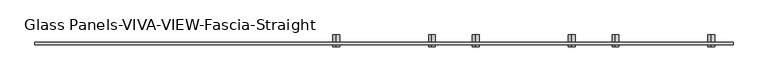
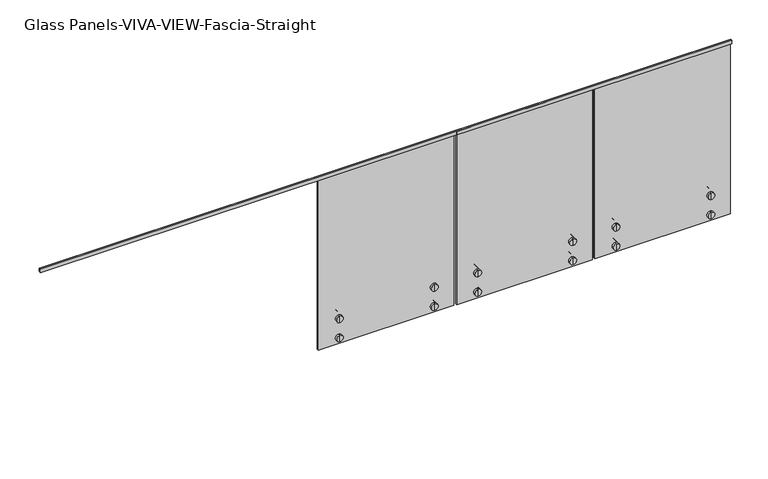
"""IFC4 building model written with IfcOpenShell, lengths in millimetres: railing geometry, Glass Panels-VIVA-VIEW-Fascia-Straight."""

from ifc_helpers import new_model, si_unit, frame, origin, place, context, project, spatial, polyline, circle_curve, outline, extrude, source, transform, mapped, element, save
from ifc_brep_helpers import plane_surface, cylinder_surface, advanced_brep


def glass_panels_viva_view_fascia_straight_a3fbb2b1(model_context):
    return source(origin(), model_context, "Body", "SolidModel", [
        extrude(outline(polyline([(-2588.6094585, 4140.2), (-2588.6094585, 4114.8), (-2590.1969585, 4114.8), (-2590.1969585, 4138.6125), (-2602.8969585, 4138.6125), (-2602.8969585, 4114.8), (-2604.4844585, 4114.8), (-2604.4844585, 4140.2), (-2588.6094585, 4140.2)])), frame((19925.5266433, 0.0, 0.0), z_axis=(1.0, 0.0, 0.0), x_axis=(0.0, 1.0, 0.0)), (0.0, 0.0, 1.0), 5181.6),
        advanced_brep(
        [(24233.7496899, -2620.3591646, 2794.0), (24233.7496899, -2620.3591646, 2844.8), (24233.7496899, -2620.3591646, 2819.4), (24233.7496899, -2602.8966646, 2794.0), (24233.7496899, -2602.8966646, 2844.8), (24233.7496899, -2602.8966646, 2813.685), (24233.7496899, -2602.8966646, 2825.115), (24233.7496899, -2590.1966646, 2813.685), (24233.7496899, -2590.1966646, 2825.115), (24233.7496899, -2590.1966646, 2794.0), (24233.7496899, -2590.1966646, 2844.8), (24233.7496899, -2533.0468115, 2794.0), (24233.7496899, -2533.0468115, 2844.8), (24233.7496899, -2533.0468115, 2819.4)],
        [
            (0, 1, circle_curve(frame((24233.7496899, -2620.3591646, 2819.4), z_axis=(0.0, -1.0, 0.0), x_axis=(0.0, 0.0, 1.0)), 25.4)),
            (1, 2),
            (2, 0),
            (1, 0, circle_curve(frame((24233.7496899, -2620.3591646, 2819.4), z_axis=(0.0, -1.0, 0.0), x_axis=(0.0, 0.0, 1.0)), 25.4)),
            (3, 4, circle_curve(frame((24233.7496899, -2602.8966646, 2819.4), z_axis=(0.0, -1.0, 0.0), x_axis=(0.0, 0.0, 1.0)), 25.4)),
            (4, 1),
            (0, 3),
            (4, 3, circle_curve(frame((24233.7496899, -2602.8966646, 2819.4), z_axis=(0.0, -1.0, 0.0), x_axis=(0.0, 0.0, 1.0)), 25.4)),
            (5, 6, circle_curve(frame((24233.7496899, -2602.8966646, 2819.4), z_axis=(0.0, -1.0, 0.0), x_axis=(0.0, 0.0, 1.0)), 5.715)),
            (6, 4),
            (3, 5),
            (6, 5, circle_curve(frame((24233.7496899, -2602.8966646, 2819.4), z_axis=(0.0, -1.0, 0.0), x_axis=(0.0, 0.0, 1.0)), 5.715)),
            (7, 8, circle_curve(frame((24233.7496899, -2590.1966646, 2819.4), z_axis=(0.0, -1.0, 0.0), x_axis=(0.0, 0.0, 1.0)), 5.715)),
            (8, 6),
            (5, 7),
            (8, 7, circle_curve(frame((24233.7496899, -2590.1966646, 2819.4), z_axis=(0.0, -1.0, 0.0), x_axis=(0.0, 0.0, 1.0)), 5.715)),
            (9, 10, circle_curve(frame((24233.7496899, -2590.1966646, 2819.4), z_axis=(0.0, -1.0, 0.0), x_axis=(0.0, 0.0, 1.0)), 25.4)),
            (10, 8),
            (7, 9),
            (10, 9, circle_curve(frame((24233.7496899, -2590.1966646, 2819.4), z_axis=(0.0, -1.0, 0.0), x_axis=(0.0, 0.0, 1.0)), 25.4)),
            (11, 12, circle_curve(frame((24233.7496899, -2533.0468115, 2819.4), z_axis=(0.0, -1.0, 0.0), x_axis=(0.0, 0.0, 1.0)), 25.4)),
            (12, 10),
            (9, 11),
            (12, 11, circle_curve(frame((24233.7496899, -2533.0468115, 2819.4), z_axis=(0.0, -1.0, 0.0), x_axis=(0.0, 0.0, 1.0)), 25.4)),
            (13, 12),
            (11, 13),
        ],
        [
            plane_surface(frame((24233.7496899, -2620.3591646, 2819.4), z_axis=(0.0, -1.0, 0.0), x_axis=(0.0, 0.0, 1.0))),
            cylinder_surface(frame((24233.7496899, -2688.6218115, 2819.4), z_axis=(0.0, 1.0, 0.0), x_axis=(0.0, 0.0, 1.0)), 25.4),
            plane_surface(frame((24233.7496899, -2602.8966646, 2819.4), z_axis=(0.0, 1.0, 0.0), x_axis=(0.0, 0.0, 1.0))),
            cylinder_surface(frame((24233.7496899, -2688.6218115, 2819.4), z_axis=(0.0, 1.0, 0.0), x_axis=(0.0, 0.0, 1.0)), 5.715),
            plane_surface(frame((24233.7496899, -2590.1966646, 2819.4), z_axis=(0.0, -1.0, 0.0), x_axis=(0.0, 0.0, 1.0))),
            plane_surface(frame((24233.7496899, -2533.0468115, 2819.4), z_axis=(0.0, 1.0, 0.0), x_axis=(0.0, 0.0, 1.0))),
        ],
        [
            (0, [[1, 2, 3]]),
            (0, [[4, -3, -2]]),
            (1, [[5, 6, -1, 7]]),
            (1, [[8, -7, -4, -6]]),
            (2, [[9, 10, -5, 11]]),
            (2, [[12, -11, -8, -10]]),
            (3, [[13, 14, -9, 15]]),
            (3, [[16, -15, -12, -14]]),
            (4, [[17, 18, -13, 19]]),
            (4, [[20, -19, -16, -18]]),
            (1, [[21, 22, -17, 23]]),
            (1, [[24, -23, -20, -22]]),
            (5, [[25, -21, 26]]),
            (5, [[-26, -24, -25]]),
        ],
    ),
        advanced_brep(
        [(24233.7496899, -2602.8966646, 2966.085), (24233.7496899, -2602.8966646, 2977.515), (24233.7496899, -2602.8966646, 2997.2), (24233.7496899, -2602.8966646, 2946.4), (24233.7496899, -2590.1966646, 2966.085), (24233.7496899, -2590.1966646, 2977.515), (24233.7496899, -2590.1966646, 2946.4), (24233.7496899, -2590.1966646, 2997.2), (24233.7496899, -2533.0468115, 2946.4), (24233.7496899, -2533.0468115, 2997.2), (24233.7496899, -2533.0468115, 2971.8), (24233.7496899, -2620.3591646, 2946.4), (24233.7496899, -2620.3591646, 2997.2), (24233.7496899, -2620.3591646, 2971.8)],
        [
            (0, 1, circle_curve(frame((24233.7496899, -2602.8966646, 2971.8), z_axis=(0.0, -1.0, 0.0), x_axis=(0.0, 0.0, 1.0)), 5.715)),
            (1, 2),
            (2, 3, circle_curve(frame((24233.7496899, -2602.8966646, 2971.8), z_axis=(0.0, 1.0, 0.0), x_axis=(0.0, 0.0, 1.0)), 25.4)),
            (3, 0),
            (1, 0, circle_curve(frame((24233.7496899, -2602.8966646, 2971.8), z_axis=(0.0, -1.0, 0.0), x_axis=(0.0, 0.0, 1.0)), 5.715)),
            (3, 2, circle_curve(frame((24233.7496899, -2602.8966646, 2971.8), z_axis=(0.0, 1.0, 0.0), x_axis=(0.0, 0.0, 1.0)), 25.4)),
            (4, 5, circle_curve(frame((24233.7496899, -2590.1966646, 2971.8), z_axis=(0.0, -1.0, 0.0), x_axis=(0.0, 0.0, 1.0)), 5.715)),
            (5, 1),
            (0, 4),
            (5, 4, circle_curve(frame((24233.7496899, -2590.1966646, 2971.8), z_axis=(0.0, -1.0, 0.0), x_axis=(0.0, 0.0, 1.0)), 5.715)),
            (6, 7, circle_curve(frame((24233.7496899, -2590.1966646, 2971.8), z_axis=(0.0, -1.0, 0.0), x_axis=(0.0, 0.0, 1.0)), 25.4)),
            (7, 5),
            (4, 6),
            (7, 6, circle_curve(frame((24233.7496899, -2590.1966646, 2971.8), z_axis=(0.0, -1.0, 0.0), x_axis=(0.0, 0.0, 1.0)), 25.4)),
            (8, 9, circle_curve(frame((24233.7496899, -2533.0468115, 2971.8), z_axis=(0.0, -1.0, 0.0), x_axis=(0.0, 0.0, 1.0)), 25.4)),
            (9, 7),
            (6, 8),
            (9, 8, circle_curve(frame((24233.7496899, -2533.0468115, 2971.8), z_axis=(0.0, -1.0, 0.0), x_axis=(0.0, 0.0, 1.0)), 25.4)),
            (10, 9),
            (8, 10),
            (11, 12, circle_curve(frame((24233.7496899, -2620.3591646, 2971.8), z_axis=(0.0, -1.0, 0.0), x_axis=(0.0, 0.0, 1.0)), 25.4)),
            (12, 13),
            (13, 11),
            (12, 11, circle_curve(frame((24233.7496899, -2620.3591646, 2971.8), z_axis=(0.0, -1.0, 0.0), x_axis=(0.0, 0.0, 1.0)), 25.4)),
            (2, 12),
            (11, 3),
        ],
        [
            plane_surface(frame((24233.7496899, -2602.8966646, 2971.8), z_axis=(0.0, 1.0, 0.0), x_axis=(0.0, 0.0, 1.0))),
            cylinder_surface(frame((24233.7496899, -2688.6218115, 2971.8), z_axis=(0.0, 1.0, 0.0), x_axis=(0.0, 0.0, 1.0)), 5.715),
            plane_surface(frame((24233.7496899, -2590.1966646, 2971.8), z_axis=(0.0, -1.0, 0.0), x_axis=(0.0, 0.0, 1.0))),
            cylinder_surface(frame((24233.7496899, -2688.6218115, 2971.8), z_axis=(0.0, 1.0, 0.0), x_axis=(0.0, 0.0, 1.0)), 25.4),
            plane_surface(frame((24233.7496899, -2533.0468115, 2971.8), z_axis=(0.0, 1.0, 0.0), x_axis=(0.0, 0.0, 1.0))),
            plane_surface(frame((24233.7496899, -2620.3591646, 2971.8), z_axis=(0.0, -1.0, 0.0), x_axis=(0.0, 0.0, 1.0))),
        ],
        [
            (0, [[1, 2, 3, 4]]),
            (0, [[5, -4, 6, -2]]),
            (1, [[7, 8, -1, 9]]),
            (1, [[10, -9, -5, -8]]),
            (2, [[11, 12, -7, 13]]),
            (2, [[14, -13, -10, -12]]),
            (3, [[15, 16, -11, 17]]),
            (3, [[18, -17, -14, -16]]),
            (4, [[19, -15, 20]]),
            (4, [[-20, -18, -19]]),
            (5, [[21, 22, 23]]),
            (5, [[24, -23, -22]]),
            (3, [[-3, 25, -21, 26]]),
            (3, [[-6, -26, -24, -25]]),
        ],
    ),
        advanced_brep(
        [(24944.9496899, -2620.3591646, 2794.0), (24944.9496899, -2620.3591646, 2844.8), (24944.9496899, -2620.3591646, 2819.4), (24944.9496899, -2602.8966646, 2794.0), (24944.9496899, -2602.8966646, 2844.8), (24944.9496899, -2602.8966646, 2813.685), (24944.9496899, -2602.8966646, 2825.115), (24944.9496899, -2590.1966646, 2813.685), (24944.9496899, -2590.1966646, 2825.115), (24944.9496899, -2590.1966646, 2794.0), (24944.9496899, -2590.1966646, 2844.8), (24944.9496899, -2533.0468115, 2794.0), (24944.9496899, -2533.0468115, 2844.8), (24944.9496899, -2533.0468115, 2819.4)],
        [
            (0, 1, circle_curve(frame((24944.9496899, -2620.3591646, 2819.4), z_axis=(0.0, -1.0, 0.0), x_axis=(0.0, 0.0, 1.0)), 25.4)),
            (1, 2),
            (2, 0),
            (1, 0, circle_curve(frame((24944.9496899, -2620.3591646, 2819.4), z_axis=(0.0, -1.0, 0.0), x_axis=(0.0, 0.0, 1.0)), 25.4)),
            (3, 4, circle_curve(frame((24944.9496899, -2602.8966646, 2819.4), z_axis=(0.0, -1.0, 0.0), x_axis=(0.0, 0.0, 1.0)), 25.4)),
            (4, 1),
            (0, 3),
            (4, 3, circle_curve(frame((24944.9496899, -2602.8966646, 2819.4), z_axis=(0.0, -1.0, 0.0), x_axis=(0.0, 0.0, 1.0)), 25.4)),
            (5, 6, circle_curve(frame((24944.9496899, -2602.8966646, 2819.4), z_axis=(0.0, -1.0, 0.0), x_axis=(0.0, 0.0, 1.0)), 5.715)),
            (6, 4),
            (3, 5),
            (6, 5, circle_curve(frame((24944.9496899, -2602.8966646, 2819.4), z_axis=(0.0, -1.0, 0.0), x_axis=(0.0, 0.0, 1.0)), 5.715)),
            (7, 8, circle_curve(frame((24944.9496899, -2590.1966646, 2819.4), z_axis=(0.0, -1.0, 0.0), x_axis=(0.0, 0.0, 1.0)), 5.715)),
            (8, 6),
            (5, 7),
            (8, 7, circle_curve(frame((24944.9496899, -2590.1966646, 2819.4), z_axis=(0.0, -1.0, 0.0), x_axis=(0.0, 0.0, 1.0)), 5.715)),
            (9, 10, circle_curve(frame((24944.9496899, -2590.1966646, 2819.4), z_axis=(0.0, -1.0, 0.0), x_axis=(0.0, 0.0, 1.0)), 25.4)),
            (10, 8),
            (7, 9),
            (10, 9, circle_curve(frame((24944.9496899, -2590.1966646, 2819.4), z_axis=(0.0, -1.0, 0.0), x_axis=(0.0, 0.0, 1.0)), 25.4)),
            (11, 12, circle_curve(frame((24944.9496899, -2533.0468115, 2819.4), z_axis=(0.0, -1.0, 0.0), x_axis=(0.0, 0.0, 1.0)), 25.4)),
            (12, 10),
            (9, 11),
            (12, 11, circle_curve(frame((24944.9496899, -2533.0468115, 2819.4), z_axis=(0.0, -1.0, 0.0), x_axis=(0.0, 0.0, 1.0)), 25.4)),
            (13, 12),
            (11, 13),
        ],
        [
            plane_surface(frame((24944.9496899, -2620.3591646, 2819.4), z_axis=(0.0, -1.0, 0.0), x_axis=(0.0, 0.0, 1.0))),
            cylinder_surface(frame((24944.9496899, -2688.6218115, 2819.4), z_axis=(0.0, 1.0, 0.0), x_axis=(0.0, 0.0, 1.0)), 25.4),
            plane_surface(frame((24944.9496899, -2602.8966646, 2819.4), z_axis=(0.0, 1.0, 0.0), x_axis=(0.0, 0.0, 1.0))),
            cylinder_surface(frame((24944.9496899, -2688.6218115, 2819.4), z_axis=(0.0, 1.0, 0.0), x_axis=(0.0, 0.0, 1.0)), 5.715),
            plane_surface(frame((24944.9496899, -2590.1966646, 2819.4), z_axis=(0.0, -1.0, 0.0), x_axis=(0.0, 0.0, 1.0))),
            plane_surface(frame((24944.9496899, -2533.0468115, 2819.4), z_axis=(0.0, 1.0, 0.0), x_axis=(0.0, 0.0, 1.0))),
        ],
        [
            (0, [[1, 2, 3]]),
            (0, [[4, -3, -2]]),
            (1, [[5, 6, -1, 7]]),
            (1, [[8, -7, -4, -6]]),
            (2, [[9, 10, -5, 11]]),
            (2, [[12, -11, -8, -10]]),
            (3, [[13, 14, -9, 15]]),
            (3, [[16, -15, -12, -14]]),
            (4, [[17, 18, -13, 19]]),
            (4, [[20, -19, -16, -18]]),
            (1, [[21, 22, -17, 23]]),
            (1, [[24, -23, -20, -22]]),
            (5, [[25, -21, 26]]),
            (5, [[-26, -24, -25]]),
        ],
    ),
        advanced_brep(
        [(24944.9496899, -2602.8966646, 2966.085), (24944.9496899, -2602.8966646, 2977.515), (24944.9496899, -2602.8966646, 2997.2), (24944.9496899, -2602.8966646, 2946.4), (24944.9496899, -2590.1966646, 2966.085), (24944.9496899, -2590.1966646, 2977.515), (24944.9496899, -2590.1966646, 2946.4), (24944.9496899, -2590.1966646, 2997.2), (24944.9496899, -2533.0468115, 2946.4), (24944.9496899, -2533.0468115, 2997.2), (24944.9496899, -2533.0468115, 2971.8), (24944.9496899, -2620.3591646, 2946.4), (24944.9496899, -2620.3591646, 2997.2), (24944.9496899, -2620.3591646, 2971.8)],
        [
            (0, 1, circle_curve(frame((24944.9496899, -2602.8966646, 2971.8), z_axis=(0.0, -1.0, 0.0), x_axis=(0.0, 0.0, 1.0)), 5.715)),
            (1, 2),
            (2, 3, circle_curve(frame((24944.9496899, -2602.8966646, 2971.8), z_axis=(0.0, 1.0, 0.0), x_axis=(0.0, 0.0, 1.0)), 25.4)),
            (3, 0),
            (1, 0, circle_curve(frame((24944.9496899, -2602.8966646, 2971.8), z_axis=(0.0, -1.0, 0.0), x_axis=(0.0, 0.0, 1.0)), 5.715)),
            (3, 2, circle_curve(frame((24944.9496899, -2602.8966646, 2971.8), z_axis=(0.0, 1.0, 0.0), x_axis=(0.0, 0.0, 1.0)), 25.4)),
            (4, 5, circle_curve(frame((24944.9496899, -2590.1966646, 2971.8), z_axis=(0.0, -1.0, 0.0), x_axis=(0.0, 0.0, 1.0)), 5.715)),
            (5, 1),
            (0, 4),
            (5, 4, circle_curve(frame((24944.9496899, -2590.1966646, 2971.8), z_axis=(0.0, -1.0, 0.0), x_axis=(0.0, 0.0, 1.0)), 5.715)),
            (6, 7, circle_curve(frame((24944.9496899, -2590.1966646, 2971.8), z_axis=(0.0, -1.0, 0.0), x_axis=(0.0, 0.0, 1.0)), 25.4)),
            (7, 5),
            (4, 6),
            (7, 6, circle_curve(frame((24944.9496899, -2590.1966646, 2971.8), z_axis=(0.0, -1.0, 0.0), x_axis=(0.0, 0.0, 1.0)), 25.4)),
            (8, 9, circle_curve(frame((24944.9496899, -2533.0468115, 2971.8), z_axis=(0.0, -1.0, 0.0), x_axis=(0.0, 0.0, 1.0)), 25.4)),
            (9, 7),
            (6, 8),
            (9, 8, circle_curve(frame((24944.9496899, -2533.0468115, 2971.8), z_axis=(0.0, -1.0, 0.0), x_axis=(0.0, 0.0, 1.0)), 25.4)),
            (10, 9),
            (8, 10),
            (11, 12, circle_curve(frame((24944.9496899, -2620.3591646, 2971.8), z_axis=(0.0, -1.0, 0.0), x_axis=(0.0, 0.0, 1.0)), 25.4)),
            (12, 13),
            (13, 11),
            (12, 11, circle_curve(frame((24944.9496899, -2620.3591646, 2971.8), z_axis=(0.0, -1.0, 0.0), x_axis=(0.0, 0.0, 1.0)), 25.4)),
            (2, 12),
            (11, 3),
        ],
        [
            plane_surface(frame((24944.9496899, -2602.8966646, 2971.8), z_axis=(0.0, 1.0, 0.0), x_axis=(0.0, 0.0, 1.0))),
            cylinder_surface(frame((24944.9496899, -2688.6218115, 2971.8), z_axis=(0.0, 1.0, 0.0), x_axis=(0.0, 0.0, 1.0)), 5.715),
            plane_surface(frame((24944.9496899, -2590.1966646, 2971.8), z_axis=(0.0, -1.0, 0.0), x_axis=(0.0, 0.0, 1.0))),
            cylinder_surface(frame((24944.9496899, -2688.6218115, 2971.8), z_axis=(0.0, 1.0, 0.0), x_axis=(0.0, 0.0, 1.0)), 25.4),
            plane_surface(frame((24944.9496899, -2533.0468115, 2971.8), z_axis=(0.0, 1.0, 0.0), x_axis=(0.0, 0.0, 1.0))),
            plane_surface(frame((24944.9496899, -2620.3591646, 2971.8), z_axis=(0.0, -1.0, 0.0), x_axis=(0.0, 0.0, 1.0))),
        ],
        [
            (0, [[1, 2, 3, 4]]),
            (0, [[5, -4, 6, -2]]),
            (1, [[7, 8, -1, 9]]),
            (1, [[10, -9, -5, -8]]),
            (2, [[11, 12, -7, 13]]),
            (2, [[14, -13, -10, -12]]),
            (3, [[15, 16, -11, 17]]),
            (3, [[18, -17, -14, -16]]),
            (4, [[19, -15, 20]]),
            (4, [[-20, -18, -19]]),
            (5, [[21, 22, 23]]),
            (5, [[24, -23, -22]]),
            (3, [[-3, 25, -21, 26]]),
            (3, [[-6, -26, -24, -25]]),
        ],
    ),
        extrude(outline(polyline([(24081.3496899, -2590.1969585), (25097.3496899, -2590.1969585), (25097.3496899, -2602.8969585), (24081.3496899, -2602.8969585), (24081.3496899, -2590.1969585)])), frame((0.0, 0.0, 2768.6), z_axis=(0.0, 0.0, 1.0), x_axis=(1.0, 0.0, 0.0)), (0.0, 0.0, 1.0), 1370.0125),
        advanced_brep(
        [(23197.4296899, -2620.3591646, 2794.0), (23197.4296899, -2620.3591646, 2844.8), (23197.4296899, -2620.3591646, 2819.4), (23197.4296899, -2602.8966646, 2794.0), (23197.4296899, -2602.8966646, 2844.8), (23197.4296899, -2602.8966646, 2813.685), (23197.4296899, -2602.8966646, 2825.115), (23197.4296899, -2590.1966646, 2813.685), (23197.4296899, -2590.1966646, 2825.115), (23197.4296899, -2590.1966646, 2794.0), (23197.4296899, -2590.1966646, 2844.8), (23197.4296899, -2533.0468115, 2794.0), (23197.4296899, -2533.0468115, 2844.8), (23197.4296899, -2533.0468115, 2819.4)],
        [
            (0, 1, circle_curve(frame((23197.4296899, -2620.3591646, 2819.4), z_axis=(0.0, -1.0, 0.0), x_axis=(0.0, 0.0, 1.0)), 25.4)),
            (1, 2),
            (2, 0),
            (1, 0, circle_curve(frame((23197.4296899, -2620.3591646, 2819.4), z_axis=(0.0, -1.0, 0.0), x_axis=(0.0, 0.0, 1.0)), 25.4)),
            (3, 4, circle_curve(frame((23197.4296899, -2602.8966646, 2819.4), z_axis=(0.0, -1.0, 0.0), x_axis=(0.0, 0.0, 1.0)), 25.4)),
            (4, 1),
            (0, 3),
            (4, 3, circle_curve(frame((23197.4296899, -2602.8966646, 2819.4), z_axis=(0.0, -1.0, 0.0), x_axis=(0.0, 0.0, 1.0)), 25.4)),
            (5, 6, circle_curve(frame((23197.4296899, -2602.8966646, 2819.4), z_axis=(0.0, -1.0, 0.0), x_axis=(0.0, 0.0, 1.0)), 5.715)),
            (6, 4),
            (3, 5),
            (6, 5, circle_curve(frame((23197.4296899, -2602.8966646, 2819.4), z_axis=(0.0, -1.0, 0.0), x_axis=(0.0, 0.0, 1.0)), 5.715)),
            (7, 8, circle_curve(frame((23197.4296899, -2590.1966646, 2819.4), z_axis=(0.0, -1.0, 0.0), x_axis=(0.0, 0.0, 1.0)), 5.715)),
            (8, 6),
            (5, 7),
            (8, 7, circle_curve(frame((23197.4296899, -2590.1966646, 2819.4), z_axis=(0.0, -1.0, 0.0), x_axis=(0.0, 0.0, 1.0)), 5.715)),
            (9, 10, circle_curve(frame((23197.4296899, -2590.1966646, 2819.4), z_axis=(0.0, -1.0, 0.0), x_axis=(0.0, 0.0, 1.0)), 25.4)),
            (10, 8),
            (7, 9),
            (10, 9, circle_curve(frame((23197.4296899, -2590.1966646, 2819.4), z_axis=(0.0, -1.0, 0.0), x_axis=(0.0, 0.0, 1.0)), 25.4)),
            (11, 12, circle_curve(frame((23197.4296899, -2533.0468115, 2819.4), z_axis=(0.0, -1.0, 0.0), x_axis=(0.0, 0.0, 1.0)), 25.4)),
            (12, 10),
            (9, 11),
            (12, 11, circle_curve(frame((23197.4296899, -2533.0468115, 2819.4), z_axis=(0.0, -1.0, 0.0), x_axis=(0.0, 0.0, 1.0)), 25.4)),
            (13, 12),
            (11, 13),
        ],
        [
            plane_surface(frame((23197.4296899, -2620.3591646, 2819.4), z_axis=(0.0, -1.0, 0.0), x_axis=(0.0, 0.0, 1.0))),
            cylinder_surface(frame((23197.4296899, -2688.6218115, 2819.4), z_axis=(0.0, 1.0, 0.0), x_axis=(0.0, 0.0, 1.0)), 25.4),
            plane_surface(frame((23197.4296899, -2602.8966646, 2819.4), z_axis=(0.0, 1.0, 0.0), x_axis=(0.0, 0.0, 1.0))),
            cylinder_surface(frame((23197.4296899, -2688.6218115, 2819.4), z_axis=(0.0, 1.0, 0.0), x_axis=(0.0, 0.0, 1.0)), 5.715),
            plane_surface(frame((23197.4296899, -2590.1966646, 2819.4), z_axis=(0.0, -1.0, 0.0), x_axis=(0.0, 0.0, 1.0))),
            plane_surface(frame((23197.4296899, -2533.0468115, 2819.4), z_axis=(0.0, 1.0, 0.0), x_axis=(0.0, 0.0, 1.0))),
        ],
        [
            (0, [[1, 2, 3]]),
            (0, [[4, -3, -2]]),
            (1, [[5, 6, -1, 7]]),
            (1, [[8, -7, -4, -6]]),
            (2, [[9, 10, -5, 11]]),
            (2, [[12, -11, -8, -10]]),
            (3, [[13, 14, -9, 15]]),
            (3, [[16, -15, -12, -14]]),
            (4, [[17, 18, -13, 19]]),
            (4, [[20, -19, -16, -18]]),
            (1, [[21, 22, -17, 23]]),
            (1, [[24, -23, -20, -22]]),
            (5, [[25, -21, 26]]),
            (5, [[-26, -24, -25]]),
        ],
    ),
        advanced_brep(
        [(23197.4296899, -2602.8966646, 2966.085), (23197.4296899, -2602.8966646, 2977.515), (23197.4296899, -2602.8966646, 2997.2), (23197.4296899, -2602.8966646, 2946.4), (23197.4296899, -2590.1966646, 2966.085), (23197.4296899, -2590.1966646, 2977.515), (23197.4296899, -2590.1966646, 2946.4), (23197.4296899, -2590.1966646, 2997.2), (23197.4296899, -2533.0468115, 2946.4), (23197.4296899, -2533.0468115, 2997.2), (23197.4296899, -2533.0468115, 2971.8), (23197.4296899, -2620.3591646, 2946.4), (23197.4296899, -2620.3591646, 2997.2), (23197.4296899, -2620.3591646, 2971.8)],
        [
            (0, 1, circle_curve(frame((23197.4296899, -2602.8966646, 2971.8), z_axis=(0.0, -1.0, 0.0), x_axis=(0.0, 0.0, 1.0)), 5.715)),
            (1, 2),
            (2, 3, circle_curve(frame((23197.4296899, -2602.8966646, 2971.8), z_axis=(0.0, 1.0, 0.0), x_axis=(0.0, 0.0, 1.0)), 25.4)),
            (3, 0),
            (1, 0, circle_curve(frame((23197.4296899, -2602.8966646, 2971.8), z_axis=(0.0, -1.0, 0.0), x_axis=(0.0, 0.0, 1.0)), 5.715)),
            (3, 2, circle_curve(frame((23197.4296899, -2602.8966646, 2971.8), z_axis=(0.0, 1.0, 0.0), x_axis=(0.0, 0.0, 1.0)), 25.4)),
            (4, 5, circle_curve(frame((23197.4296899, -2590.1966646, 2971.8), z_axis=(0.0, -1.0, 0.0), x_axis=(0.0, 0.0, 1.0)), 5.715)),
            (5, 1),
            (0, 4),
            (5, 4, circle_curve(frame((23197.4296899, -2590.1966646, 2971.8), z_axis=(0.0, -1.0, 0.0), x_axis=(0.0, 0.0, 1.0)), 5.715)),
            (6, 7, circle_curve(frame((23197.4296899, -2590.1966646, 2971.8), z_axis=(0.0, -1.0, 0.0), x_axis=(0.0, 0.0, 1.0)), 25.4)),
            (7, 5),
            (4, 6),
            (7, 6, circle_curve(frame((23197.4296899, -2590.1966646, 2971.8), z_axis=(0.0, -1.0, 0.0), x_axis=(0.0, 0.0, 1.0)), 25.4)),
            (8, 9, circle_curve(frame((23197.4296899, -2533.0468115, 2971.8), z_axis=(0.0, -1.0, 0.0), x_axis=(0.0, 0.0, 1.0)), 25.4)),
            (9, 7),
            (6, 8),
            (9, 8, circle_curve(frame((23197.4296899, -2533.0468115, 2971.8), z_axis=(0.0, -1.0, 0.0), x_axis=(0.0, 0.0, 1.0)), 25.4)),
            (10, 9),
            (8, 10),
            (11, 12, circle_curve(frame((23197.4296899, -2620.3591646, 2971.8), z_axis=(0.0, -1.0, 0.0), x_axis=(0.0, 0.0, 1.0)), 25.4)),
            (12, 13),
            (13, 11),
            (12, 11, circle_curve(frame((23197.4296899, -2620.3591646, 2971.8), z_axis=(0.0, -1.0, 0.0), x_axis=(0.0, 0.0, 1.0)), 25.4)),
            (2, 12),
            (11, 3),
        ],
        [
            plane_surface(frame((23197.4296899, -2602.8966646, 2971.8), z_axis=(0.0, 1.0, 0.0), x_axis=(0.0, 0.0, 1.0))),
            cylinder_surface(frame((23197.4296899, -2688.6218115, 2971.8), z_axis=(0.0, 1.0, 0.0), x_axis=(0.0, 0.0, 1.0)), 5.715),
            plane_surface(frame((23197.4296899, -2590.1966646, 2971.8), z_axis=(0.0, -1.0, 0.0), x_axis=(0.0, 0.0, 1.0))),
            cylinder_surface(frame((23197.4296899, -2688.6218115, 2971.8), z_axis=(0.0, 1.0, 0.0), x_axis=(0.0, 0.0, 1.0)), 25.4),
            plane_surface(frame((23197.4296899, -2533.0468115, 2971.8), z_axis=(0.0, 1.0, 0.0), x_axis=(0.0, 0.0, 1.0))),
            plane_surface(frame((23197.4296899, -2620.3591646, 2971.8), z_axis=(0.0, -1.0, 0.0), x_axis=(0.0, 0.0, 1.0))),
        ],
        [
            (0, [[1, 2, 3, 4]]),
            (0, [[5, -4, 6, -2]]),
            (1, [[7, 8, -1, 9]]),
            (1, [[10, -9, -5, -8]]),
            (2, [[11, 12, -7, 13]]),
            (2, [[14, -13, -10, -12]]),
            (3, [[15, 16, -11, 17]]),
            (3, [[18, -17, -14, -16]]),
            (4, [[19, -15, 20]]),
            (4, [[-20, -18, -19]]),
            (5, [[21, 22, 23]]),
            (5, [[24, -23, -22]]),
            (3, [[-3, 25, -21, 26]]),
            (3, [[-6, -26, -24, -25]]),
        ],
    ),
        advanced_brep(
        [(23908.6296899, -2620.3591646, 2794.0), (23908.6296899, -2620.3591646, 2844.8), (23908.6296899, -2620.3591646, 2819.4), (23908.6296899, -2602.8966646, 2794.0), (23908.6296899, -2602.8966646, 2844.8), (23908.6296899, -2602.8966646, 2813.685), (23908.6296899, -2602.8966646, 2825.115), (23908.6296899, -2590.1966646, 2813.685), (23908.6296899, -2590.1966646, 2825.115), (23908.6296899, -2590.1966646, 2794.0), (23908.6296899, -2590.1966646, 2844.8), (23908.6296899, -2533.0468115, 2794.0), (23908.6296899, -2533.0468115, 2844.8), (23908.6296899, -2533.0468115, 2819.4)],
        [
            (0, 1, circle_curve(frame((23908.6296899, -2620.3591646, 2819.4), z_axis=(0.0, -1.0, 0.0), x_axis=(0.0, 0.0, 1.0)), 25.4)),
            (1, 2),
            (2, 0),
            (1, 0, circle_curve(frame((23908.6296899, -2620.3591646, 2819.4), z_axis=(0.0, -1.0, 0.0), x_axis=(0.0, 0.0, 1.0)), 25.4)),
            (3, 4, circle_curve(frame((23908.6296899, -2602.8966646, 2819.4), z_axis=(0.0, -1.0, 0.0), x_axis=(0.0, 0.0, 1.0)), 25.4)),
            (4, 1),
            (0, 3),
            (4, 3, circle_curve(frame((23908.6296899, -2602.8966646, 2819.4), z_axis=(0.0, -1.0, 0.0), x_axis=(0.0, 0.0, 1.0)), 25.4)),
            (5, 6, circle_curve(frame((23908.6296899, -2602.8966646, 2819.4), z_axis=(0.0, -1.0, 0.0), x_axis=(0.0, 0.0, 1.0)), 5.715)),
            (6, 4),
            (3, 5),
            (6, 5, circle_curve(frame((23908.6296899, -2602.8966646, 2819.4), z_axis=(0.0, -1.0, 0.0), x_axis=(0.0, 0.0, 1.0)), 5.715)),
            (7, 8, circle_curve(frame((23908.6296899, -2590.1966646, 2819.4), z_axis=(0.0, -1.0, 0.0), x_axis=(0.0, 0.0, 1.0)), 5.715)),
            (8, 6),
            (5, 7),
            (8, 7, circle_curve(frame((23908.6296899, -2590.1966646, 2819.4), z_axis=(0.0, -1.0, 0.0), x_axis=(0.0, 0.0, 1.0)), 5.715)),
            (9, 10, circle_curve(frame((23908.6296899, -2590.1966646, 2819.4), z_axis=(0.0, -1.0, 0.0), x_axis=(0.0, 0.0, 1.0)), 25.4)),
            (10, 8),
            (7, 9),
            (10, 9, circle_curve(frame((23908.6296899, -2590.1966646, 2819.4), z_axis=(0.0, -1.0, 0.0), x_axis=(0.0, 0.0, 1.0)), 25.4)),
            (11, 12, circle_curve(frame((23908.6296899, -2533.0468115, 2819.4), z_axis=(0.0, -1.0, 0.0), x_axis=(0.0, 0.0, 1.0)), 25.4)),
            (12, 10),
            (9, 11),
            (12, 11, circle_curve(frame((23908.6296899, -2533.0468115, 2819.4), z_axis=(0.0, -1.0, 0.0), x_axis=(0.0, 0.0, 1.0)), 25.4)),
            (13, 12),
            (11, 13),
        ],
        [
            plane_surface(frame((23908.6296899, -2620.3591646, 2819.4), z_axis=(0.0, -1.0, 0.0), x_axis=(0.0, 0.0, 1.0))),
            cylinder_surface(frame((23908.6296899, -2688.6218115, 2819.4), z_axis=(0.0, 1.0, 0.0), x_axis=(0.0, 0.0, 1.0)), 25.4),
            plane_surface(frame((23908.6296899, -2602.8966646, 2819.4), z_axis=(0.0, 1.0, 0.0), x_axis=(0.0, 0.0, 1.0))),
            cylinder_surface(frame((23908.6296899, -2688.6218115, 2819.4), z_axis=(0.0, 1.0, 0.0), x_axis=(0.0, 0.0, 1.0)), 5.715),
            plane_surface(frame((23908.6296899, -2590.1966646, 2819.4), z_axis=(0.0, -1.0, 0.0), x_axis=(0.0, 0.0, 1.0))),
            plane_surface(frame((23908.6296899, -2533.0468115, 2819.4), z_axis=(0.0, 1.0, 0.0), x_axis=(0.0, 0.0, 1.0))),
        ],
        [
            (0, [[1, 2, 3]]),
            (0, [[4, -3, -2]]),
            (1, [[5, 6, -1, 7]]),
            (1, [[8, -7, -4, -6]]),
            (2, [[9, 10, -5, 11]]),
            (2, [[12, -11, -8, -10]]),
            (3, [[13, 14, -9, 15]]),
            (3, [[16, -15, -12, -14]]),
            (4, [[17, 18, -13, 19]]),
            (4, [[20, -19, -16, -18]]),
            (1, [[21, 22, -17, 23]]),
            (1, [[24, -23, -20, -22]]),
            (5, [[25, -21, 26]]),
            (5, [[-26, -24, -25]]),
        ],
    ),
        advanced_brep(
        [(23908.6296899, -2602.8966646, 2966.085), (23908.6296899, -2602.8966646, 2977.515), (23908.6296899, -2602.8966646, 2997.2), (23908.6296899, -2602.8966646, 2946.4), (23908.6296899, -2590.1966646, 2966.085), (23908.6296899, -2590.1966646, 2977.515), (23908.6296899, -2590.1966646, 2946.4), (23908.6296899, -2590.1966646, 2997.2), (23908.6296899, -2533.0468115, 2946.4), (23908.6296899, -2533.0468115, 2997.2), (23908.6296899, -2533.0468115, 2971.8), (23908.6296899, -2620.3591646, 2946.4), (23908.6296899, -2620.3591646, 2997.2), (23908.6296899, -2620.3591646, 2971.8)],
        [
            (0, 1, circle_curve(frame((23908.6296899, -2602.8966646, 2971.8), z_axis=(0.0, -1.0, 0.0), x_axis=(0.0, 0.0, 1.0)), 5.715)),
            (1, 2),
            (2, 3, circle_curve(frame((23908.6296899, -2602.8966646, 2971.8), z_axis=(0.0, 1.0, 0.0), x_axis=(0.0, 0.0, 1.0)), 25.4)),
            (3, 0),
            (1, 0, circle_curve(frame((23908.6296899, -2602.8966646, 2971.8), z_axis=(0.0, -1.0, 0.0), x_axis=(0.0, 0.0, 1.0)), 5.715)),
            (3, 2, circle_curve(frame((23908.6296899, -2602.8966646, 2971.8), z_axis=(0.0, 1.0, 0.0), x_axis=(0.0, 0.0, 1.0)), 25.4)),
            (4, 5, circle_curve(frame((23908.6296899, -2590.1966646, 2971.8), z_axis=(0.0, -1.0, 0.0), x_axis=(0.0, 0.0, 1.0)), 5.715)),
            (5, 1),
            (0, 4),
            (5, 4, circle_curve(frame((23908.6296899, -2590.1966646, 2971.8), z_axis=(0.0, -1.0, 0.0), x_axis=(0.0, 0.0, 1.0)), 5.715)),
            (6, 7, circle_curve(frame((23908.6296899, -2590.1966646, 2971.8), z_axis=(0.0, -1.0, 0.0), x_axis=(0.0, 0.0, 1.0)), 25.4)),
            (7, 5),
            (4, 6),
            (7, 6, circle_curve(frame((23908.6296899, -2590.1966646, 2971.8), z_axis=(0.0, -1.0, 0.0), x_axis=(0.0, 0.0, 1.0)), 25.4)),
            (8, 9, circle_curve(frame((23908.6296899, -2533.0468115, 2971.8), z_axis=(0.0, -1.0, 0.0), x_axis=(0.0, 0.0, 1.0)), 25.4)),
            (9, 7),
            (6, 8),
            (9, 8, circle_curve(frame((23908.6296899, -2533.0468115, 2971.8), z_axis=(0.0, -1.0, 0.0), x_axis=(0.0, 0.0, 1.0)), 25.4)),
            (10, 9),
            (8, 10),
            (11, 12, circle_curve(frame((23908.6296899, -2620.3591646, 2971.8), z_axis=(0.0, -1.0, 0.0), x_axis=(0.0, 0.0, 1.0)), 25.4)),
            (12, 13),
            (13, 11),
            (12, 11, circle_curve(frame((23908.6296899, -2620.3591646, 2971.8), z_axis=(0.0, -1.0, 0.0), x_axis=(0.0, 0.0, 1.0)), 25.4)),
            (2, 12),
            (11, 3),
        ],
        [
            plane_surface(frame((23908.6296899, -2602.8966646, 2971.8), z_axis=(0.0, 1.0, 0.0), x_axis=(0.0, 0.0, 1.0))),
            cylinder_surface(frame((23908.6296899, -2688.6218115, 2971.8), z_axis=(0.0, 1.0, 0.0), x_axis=(0.0, 0.0, 1.0)), 5.715),
            plane_surface(frame((23908.6296899, -2590.1966646, 2971.8), z_axis=(0.0, -1.0, 0.0), x_axis=(0.0, 0.0, 1.0))),
            cylinder_surface(frame((23908.6296899, -2688.6218115, 2971.8), z_axis=(0.0, 1.0, 0.0), x_axis=(0.0, 0.0, 1.0)), 25.4),
            plane_surface(frame((23908.6296899, -2533.0468115, 2971.8), z_axis=(0.0, 1.0, 0.0), x_axis=(0.0, 0.0, 1.0))),
            plane_surface(frame((23908.6296899, -2620.3591646, 2971.8), z_axis=(0.0, -1.0, 0.0), x_axis=(0.0, 0.0, 1.0))),
        ],
        [
            (0, [[1, 2, 3, 4]]),
            (0, [[5, -4, 6, -2]]),
            (1, [[7, 8, -1, 9]]),
            (1, [[10, -9, -5, -8]]),
            (2, [[11, 12, -7, 13]]),
            (2, [[14, -13, -10, -12]]),
            (3, [[15, 16, -11, 17]]),
            (3, [[18, -17, -14, -16]]),
            (4, [[19, -15, 20]]),
            (4, [[-20, -18, -19]]),
            (5, [[21, 22, 23]]),
            (5, [[24, -23, -22]]),
            (3, [[-3, 25, -21, 26]]),
            (3, [[-6, -26, -24, -25]]),
        ],
    ),
        extrude(outline(polyline([(23045.0296899, -2590.1969585), (24061.0296899, -2590.1969585), (24061.0296899, -2602.8969585), (23045.0296899, -2602.8969585), (23045.0296899, -2590.1969585)])), frame((0.0, 0.0, 2768.6), z_axis=(0.0, 0.0, 1.0), x_axis=(1.0, 0.0, 0.0)), (0.0, 0.0, 1.0), 1370.0125),
        advanced_brep(
        [(22161.1096899, -2620.3591646, 2794.0), (22161.1096899, -2620.3591646, 2844.8), (22161.1096899, -2620.3591646, 2819.4), (22161.1096899, -2602.8966646, 2794.0), (22161.1096899, -2602.8966646, 2844.8), (22161.1096899, -2602.8966646, 2813.685), (22161.1096899, -2602.8966646, 2825.115), (22161.1096899, -2590.1966646, 2813.685), (22161.1096899, -2590.1966646, 2825.115), (22161.1096899, -2590.1966646, 2794.0), (22161.1096899, -2590.1966646, 2844.8), (22161.1096899, -2533.0468115, 2794.0), (22161.1096899, -2533.0468115, 2844.8), (22161.1096899, -2533.0468115, 2819.4)],
        [
            (0, 1, circle_curve(frame((22161.1096899, -2620.3591646, 2819.4), z_axis=(0.0, -1.0, 0.0), x_axis=(0.0, 0.0, 1.0)), 25.4)),
            (1, 2),
            (2, 0),
            (1, 0, circle_curve(frame((22161.1096899, -2620.3591646, 2819.4), z_axis=(0.0, -1.0, 0.0), x_axis=(0.0, 0.0, 1.0)), 25.4)),
            (3, 4, circle_curve(frame((22161.1096899, -2602.8966646, 2819.4), z_axis=(0.0, -1.0, 0.0), x_axis=(0.0, 0.0, 1.0)), 25.4)),
            (4, 1),
            (0, 3),
            (4, 3, circle_curve(frame((22161.1096899, -2602.8966646, 2819.4), z_axis=(0.0, -1.0, 0.0), x_axis=(0.0, 0.0, 1.0)), 25.4)),
            (5, 6, circle_curve(frame((22161.1096899, -2602.8966646, 2819.4), z_axis=(0.0, -1.0, 0.0), x_axis=(0.0, 0.0, 1.0)), 5.715)),
            (6, 4),
            (3, 5),
            (6, 5, circle_curve(frame((22161.1096899, -2602.8966646, 2819.4), z_axis=(0.0, -1.0, 0.0), x_axis=(0.0, 0.0, 1.0)), 5.715)),
            (7, 8, circle_curve(frame((22161.1096899, -2590.1966646, 2819.4), z_axis=(0.0, -1.0, 0.0), x_axis=(0.0, 0.0, 1.0)), 5.715)),
            (8, 6),
            (5, 7),
            (8, 7, circle_curve(frame((22161.1096899, -2590.1966646, 2819.4), z_axis=(0.0, -1.0, 0.0), x_axis=(0.0, 0.0, 1.0)), 5.715)),
            (9, 10, circle_curve(frame((22161.1096899, -2590.1966646, 2819.4), z_axis=(0.0, -1.0, 0.0), x_axis=(0.0, 0.0, 1.0)), 25.4)),
            (10, 8),
            (7, 9),
            (10, 9, circle_curve(frame((22161.1096899, -2590.1966646, 2819.4), z_axis=(0.0, -1.0, 0.0), x_axis=(0.0, 0.0, 1.0)), 25.4)),
            (11, 12, circle_curve(frame((22161.1096899, -2533.0468115, 2819.4), z_axis=(0.0, -1.0, 0.0), x_axis=(0.0, 0.0, 1.0)), 25.4)),
            (12, 10),
            (9, 11),
            (12, 11, circle_curve(frame((22161.1096899, -2533.0468115, 2819.4), z_axis=(0.0, -1.0, 0.0), x_axis=(0.0, 0.0, 1.0)), 25.4)),
            (13, 12),
            (11, 13),
        ],
        [
            plane_surface(frame((22161.1096899, -2620.3591646, 2819.4), z_axis=(0.0, -1.0, 0.0), x_axis=(0.0, 0.0, 1.0))),
            cylinder_surface(frame((22161.1096899, -2688.6218115, 2819.4), z_axis=(0.0, 1.0, 0.0), x_axis=(0.0, 0.0, 1.0)), 25.4),
            plane_surface(frame((22161.1096899, -2602.8966646, 2819.4), z_axis=(0.0, 1.0, 0.0), x_axis=(0.0, 0.0, 1.0))),
            cylinder_surface(frame((22161.1096899, -2688.6218115, 2819.4), z_axis=(0.0, 1.0, 0.0), x_axis=(0.0, 0.0, 1.0)), 5.715),
            plane_surface(frame((22161.1096899, -2590.1966646, 2819.4), z_axis=(0.0, -1.0, 0.0), x_axis=(0.0, 0.0, 1.0))),
            plane_surface(frame((22161.1096899, -2533.0468115, 2819.4), z_axis=(0.0, 1.0, 0.0), x_axis=(0.0, 0.0, 1.0))),
        ],
        [
            (0, [[1, 2, 3]]),
            (0, [[4, -3, -2]]),
            (1, [[5, 6, -1, 7]]),
            (1, [[8, -7, -4, -6]]),
            (2, [[9, 10, -5, 11]]),
            (2, [[12, -11, -8, -10]]),
            (3, [[13, 14, -9, 15]]),
            (3, [[16, -15, -12, -14]]),
            (4, [[17, 18, -13, 19]]),
            (4, [[20, -19, -16, -18]]),
            (1, [[21, 22, -17, 23]]),
            (1, [[24, -23, -20, -22]]),
            (5, [[25, -21, 26]]),
            (5, [[-26, -24, -25]]),
        ],
    ),
        advanced_brep(
        [(22161.1096899, -2602.8966646, 2966.085), (22161.1096899, -2602.8966646, 2977.515), (22161.1096899, -2602.8966646, 2997.2), (22161.1096899, -2602.8966646, 2946.4), (22161.1096899, -2590.1966646, 2966.085), (22161.1096899, -2590.1966646, 2977.515), (22161.1096899, -2590.1966646, 2946.4), (22161.1096899, -2590.1966646, 2997.2), (22161.1096899, -2533.0468115, 2946.4), (22161.1096899, -2533.0468115, 2997.2), (22161.1096899, -2533.0468115, 2971.8), (22161.1096899, -2620.3591646, 2946.4), (22161.1096899, -2620.3591646, 2997.2), (22161.1096899, -2620.3591646, 2971.8)],
        [
            (0, 1, circle_curve(frame((22161.1096899, -2602.8966646, 2971.8), z_axis=(0.0, -1.0, 0.0), x_axis=(0.0, 0.0, 1.0)), 5.715)),
            (1, 2),
            (2, 3, circle_curve(frame((22161.1096899, -2602.8966646, 2971.8), z_axis=(0.0, 1.0, 0.0), x_axis=(0.0, 0.0, 1.0)), 25.4)),
            (3, 0),
            (1, 0, circle_curve(frame((22161.1096899, -2602.8966646, 2971.8), z_axis=(0.0, -1.0, 0.0), x_axis=(0.0, 0.0, 1.0)), 5.715)),
            (3, 2, circle_curve(frame((22161.1096899, -2602.8966646, 2971.8), z_axis=(0.0, 1.0, 0.0), x_axis=(0.0, 0.0, 1.0)), 25.4)),
            (4, 5, circle_curve(frame((22161.1096899, -2590.1966646, 2971.8), z_axis=(0.0, -1.0, 0.0), x_axis=(0.0, 0.0, 1.0)), 5.715)),
            (5, 1),
            (0, 4),
            (5, 4, circle_curve(frame((22161.1096899, -2590.1966646, 2971.8), z_axis=(0.0, -1.0, 0.0), x_axis=(0.0, 0.0, 1.0)), 5.715)),
            (6, 7, circle_curve(frame((22161.1096899, -2590.1966646, 2971.8), z_axis=(0.0, -1.0, 0.0), x_axis=(0.0, 0.0, 1.0)), 25.4)),
            (7, 5),
            (4, 6),
            (7, 6, circle_curve(frame((22161.1096899, -2590.1966646, 2971.8), z_axis=(0.0, -1.0, 0.0), x_axis=(0.0, 0.0, 1.0)), 25.4)),
            (8, 9, circle_curve(frame((22161.1096899, -2533.0468115, 2971.8), z_axis=(0.0, -1.0, 0.0), x_axis=(0.0, 0.0, 1.0)), 25.4)),
            (9, 7),
            (6, 8),
            (9, 8, circle_curve(frame((22161.1096899, -2533.0468115, 2971.8), z_axis=(0.0, -1.0, 0.0), x_axis=(0.0, 0.0, 1.0)), 25.4)),
            (10, 9),
            (8, 10),
            (11, 12, circle_curve(frame((22161.1096899, -2620.3591646, 2971.8), z_axis=(0.0, -1.0, 0.0), x_axis=(0.0, 0.0, 1.0)), 25.4)),
            (12, 13),
            (13, 11),
            (12, 11, circle_curve(frame((22161.1096899, -2620.3591646, 2971.8), z_axis=(0.0, -1.0, 0.0), x_axis=(0.0, 0.0, 1.0)), 25.4)),
            (2, 12),
            (11, 3),
        ],
        [
            plane_surface(frame((22161.1096899, -2602.8966646, 2971.8), z_axis=(0.0, 1.0, 0.0), x_axis=(0.0, 0.0, 1.0))),
            cylinder_surface(frame((22161.1096899, -2688.6218115, 2971.8), z_axis=(0.0, 1.0, 0.0), x_axis=(0.0, 0.0, 1.0)), 5.715),
            plane_surface(frame((22161.1096899, -2590.1966646, 2971.8), z_axis=(0.0, -1.0, 0.0), x_axis=(0.0, 0.0, 1.0))),
            cylinder_surface(frame((22161.1096899, -2688.6218115, 2971.8), z_axis=(0.0, 1.0, 0.0), x_axis=(0.0, 0.0, 1.0)), 25.4),
            plane_surface(frame((22161.1096899, -2533.0468115, 2971.8), z_axis=(0.0, 1.0, 0.0), x_axis=(0.0, 0.0, 1.0))),
            plane_surface(frame((22161.1096899, -2620.3591646, 2971.8), z_axis=(0.0, -1.0, 0.0), x_axis=(0.0, 0.0, 1.0))),
        ],
        [
            (0, [[1, 2, 3, 4]]),
            (0, [[5, -4, 6, -2]]),
            (1, [[7, 8, -1, 9]]),
            (1, [[10, -9, -5, -8]]),
            (2, [[11, 12, -7, 13]]),
            (2, [[14, -13, -10, -12]]),
            (3, [[15, 16, -11, 17]]),
            (3, [[18, -17, -14, -16]]),
            (4, [[19, -15, 20]]),
            (4, [[-20, -18, -19]]),
            (5, [[21, 22, 23]]),
            (5, [[24, -23, -22]]),
            (3, [[-3, 25, -21, 26]]),
            (3, [[-6, -26, -24, -25]]),
        ],
    ),
        advanced_brep(
        [(22872.3096899, -2620.3591646, 2794.0), (22872.3096899, -2620.3591646, 2844.8), (22872.3096899, -2620.3591646, 2819.4), (22872.3096899, -2602.8966646, 2794.0), (22872.3096899, -2602.8966646, 2844.8), (22872.3096899, -2602.8966646, 2813.685), (22872.3096899, -2602.8966646, 2825.115), (22872.3096899, -2590.1966646, 2813.685), (22872.3096899, -2590.1966646, 2825.115), (22872.3096899, -2590.1966646, 2794.0), (22872.3096899, -2590.1966646, 2844.8), (22872.3096899, -2533.0468115, 2794.0), (22872.3096899, -2533.0468115, 2844.8), (22872.3096899, -2533.0468115, 2819.4)],
        [
            (0, 1, circle_curve(frame((22872.3096899, -2620.3591646, 2819.4), z_axis=(0.0, -1.0, 0.0), x_axis=(0.0, 0.0, 1.0)), 25.4)),
            (1, 2),
            (2, 0),
            (1, 0, circle_curve(frame((22872.3096899, -2620.3591646, 2819.4), z_axis=(0.0, -1.0, 0.0), x_axis=(0.0, 0.0, 1.0)), 25.4)),
            (3, 4, circle_curve(frame((22872.3096899, -2602.8966646, 2819.4), z_axis=(0.0, -1.0, 0.0), x_axis=(0.0, 0.0, 1.0)), 25.4)),
            (4, 1),
            (0, 3),
            (4, 3, circle_curve(frame((22872.3096899, -2602.8966646, 2819.4), z_axis=(0.0, -1.0, 0.0), x_axis=(0.0, 0.0, 1.0)), 25.4)),
            (5, 6, circle_curve(frame((22872.3096899, -2602.8966646, 2819.4), z_axis=(0.0, -1.0, 0.0), x_axis=(0.0, 0.0, 1.0)), 5.715)),
            (6, 4),
            (3, 5),
            (6, 5, circle_curve(frame((22872.3096899, -2602.8966646, 2819.4), z_axis=(0.0, -1.0, 0.0), x_axis=(0.0, 0.0, 1.0)), 5.715)),
            (7, 8, circle_curve(frame((22872.3096899, -2590.1966646, 2819.4), z_axis=(0.0, -1.0, 0.0), x_axis=(0.0, 0.0, 1.0)), 5.715)),
            (8, 6),
            (5, 7),
            (8, 7, circle_curve(frame((22872.3096899, -2590.1966646, 2819.4), z_axis=(0.0, -1.0, 0.0), x_axis=(0.0, 0.0, 1.0)), 5.715)),
            (9, 10, circle_curve(frame((22872.3096899, -2590.1966646, 2819.4), z_axis=(0.0, -1.0, 0.0), x_axis=(0.0, 0.0, 1.0)), 25.4)),
            (10, 8),
            (7, 9),
            (10, 9, circle_curve(frame((22872.3096899, -2590.1966646, 2819.4), z_axis=(0.0, -1.0, 0.0), x_axis=(0.0, 0.0, 1.0)), 25.4)),
            (11, 12, circle_curve(frame((22872.3096899, -2533.0468115, 2819.4), z_axis=(0.0, -1.0, 0.0), x_axis=(0.0, 0.0, 1.0)), 25.4)),
            (12, 10),
            (9, 11),
            (12, 11, circle_curve(frame((22872.3096899, -2533.0468115, 2819.4), z_axis=(0.0, -1.0, 0.0), x_axis=(0.0, 0.0, 1.0)), 25.4)),
            (13, 12),
            (11, 13),
        ],
        [
            plane_surface(frame((22872.3096899, -2620.3591646, 2819.4), z_axis=(0.0, -1.0, 0.0), x_axis=(0.0, 0.0, 1.0))),
            cylinder_surface(frame((22872.3096899, -2688.6218115, 2819.4), z_axis=(0.0, 1.0, 0.0), x_axis=(0.0, 0.0, 1.0)), 25.4),
            plane_surface(frame((22872.3096899, -2602.8966646, 2819.4), z_axis=(0.0, 1.0, 0.0), x_axis=(0.0, 0.0, 1.0))),
            cylinder_surface(frame((22872.3096899, -2688.6218115, 2819.4), z_axis=(0.0, 1.0, 0.0), x_axis=(0.0, 0.0, 1.0)), 5.715),
            plane_surface(frame((22872.3096899, -2590.1966646, 2819.4), z_axis=(0.0, -1.0, 0.0), x_axis=(0.0, 0.0, 1.0))),
            plane_surface(frame((22872.3096899, -2533.0468115, 2819.4), z_axis=(0.0, 1.0, 0.0), x_axis=(0.0, 0.0, 1.0))),
        ],
        [
            (0, [[1, 2, 3]]),
            (0, [[4, -3, -2]]),
            (1, [[5, 6, -1, 7]]),
            (1, [[8, -7, -4, -6]]),
            (2, [[9, 10, -5, 11]]),
            (2, [[12, -11, -8, -10]]),
            (3, [[13, 14, -9, 15]]),
            (3, [[16, -15, -12, -14]]),
            (4, [[17, 18, -13, 19]]),
            (4, [[20, -19, -16, -18]]),
            (1, [[21, 22, -17, 23]]),
            (1, [[24, -23, -20, -22]]),
            (5, [[25, -21, 26]]),
            (5, [[-26, -24, -25]]),
        ],
    ),
        advanced_brep(
        [(22872.3096899, -2602.8966646, 2966.085), (22872.3096899, -2602.8966646, 2977.515), (22872.3096899, -2602.8966646, 2997.2), (22872.3096899, -2602.8966646, 2946.4), (22872.3096899, -2590.1966646, 2966.085), (22872.3096899, -2590.1966646, 2977.515), (22872.3096899, -2590.1966646, 2946.4), (22872.3096899, -2590.1966646, 2997.2), (22872.3096899, -2533.0468115, 2946.4), (22872.3096899, -2533.0468115, 2997.2), (22872.3096899, -2533.0468115, 2971.8), (22872.3096899, -2620.3591646, 2946.4), (22872.3096899, -2620.3591646, 2997.2), (22872.3096899, -2620.3591646, 2971.8)],
        [
            (0, 1, circle_curve(frame((22872.3096899, -2602.8966646, 2971.8), z_axis=(0.0, -1.0, 0.0), x_axis=(0.0, 0.0, 1.0)), 5.715)),
            (1, 2),
            (2, 3, circle_curve(frame((22872.3096899, -2602.8966646, 2971.8), z_axis=(0.0, 1.0, 0.0), x_axis=(0.0, 0.0, 1.0)), 25.4)),
            (3, 0),
            (1, 0, circle_curve(frame((22872.3096899, -2602.8966646, 2971.8), z_axis=(0.0, -1.0, 0.0), x_axis=(0.0, 0.0, 1.0)), 5.715)),
            (3, 2, circle_curve(frame((22872.3096899, -2602.8966646, 2971.8), z_axis=(0.0, 1.0, 0.0), x_axis=(0.0, 0.0, 1.0)), 25.4)),
            (4, 5, circle_curve(frame((22872.3096899, -2590.1966646, 2971.8), z_axis=(0.0, -1.0, 0.0), x_axis=(0.0, 0.0, 1.0)), 5.715)),
            (5, 1),
            (0, 4),
            (5, 4, circle_curve(frame((22872.3096899, -2590.1966646, 2971.8), z_axis=(0.0, -1.0, 0.0), x_axis=(0.0, 0.0, 1.0)), 5.715)),
            (6, 7, circle_curve(frame((22872.3096899, -2590.1966646, 2971.8), z_axis=(0.0, -1.0, 0.0), x_axis=(0.0, 0.0, 1.0)), 25.4)),
            (7, 5),
            (4, 6),
            (7, 6, circle_curve(frame((22872.3096899, -2590.1966646, 2971.8), z_axis=(0.0, -1.0, 0.0), x_axis=(0.0, 0.0, 1.0)), 25.4)),
            (8, 9, circle_curve(frame((22872.3096899, -2533.0468115, 2971.8), z_axis=(0.0, -1.0, 0.0), x_axis=(0.0, 0.0, 1.0)), 25.4)),
            (9, 7),
            (6, 8),
            (9, 8, circle_curve(frame((22872.3096899, -2533.0468115, 2971.8), z_axis=(0.0, -1.0, 0.0), x_axis=(0.0, 0.0, 1.0)), 25.4)),
            (10, 9),
            (8, 10),
            (11, 12, circle_curve(frame((22872.3096899, -2620.3591646, 2971.8), z_axis=(0.0, -1.0, 0.0), x_axis=(0.0, 0.0, 1.0)), 25.4)),
            (12, 13),
            (13, 11),
            (12, 11, circle_curve(frame((22872.3096899, -2620.3591646, 2971.8), z_axis=(0.0, -1.0, 0.0), x_axis=(0.0, 0.0, 1.0)), 25.4)),
            (2, 12),
            (11, 3),
        ],
        [
            plane_surface(frame((22872.3096899, -2602.8966646, 2971.8), z_axis=(0.0, 1.0, 0.0), x_axis=(0.0, 0.0, 1.0))),
            cylinder_surface(frame((22872.3096899, -2688.6218115, 2971.8), z_axis=(0.0, 1.0, 0.0), x_axis=(0.0, 0.0, 1.0)), 5.715),
            plane_surface(frame((22872.3096899, -2590.1966646, 2971.8), z_axis=(0.0, -1.0, 0.0), x_axis=(0.0, 0.0, 1.0))),
            cylinder_surface(frame((22872.3096899, -2688.6218115, 2971.8), z_axis=(0.0, 1.0, 0.0), x_axis=(0.0, 0.0, 1.0)), 25.4),
            plane_surface(frame((22872.3096899, -2533.0468115, 2971.8), z_axis=(0.0, 1.0, 0.0), x_axis=(0.0, 0.0, 1.0))),
            plane_surface(frame((22872.3096899, -2620.3591646, 2971.8), z_axis=(0.0, -1.0, 0.0), x_axis=(0.0, 0.0, 1.0))),
        ],
        [
            (0, [[1, 2, 3, 4]]),
            (0, [[5, -4, 6, -2]]),
            (1, [[7, 8, -1, 9]]),
            (1, [[10, -9, -5, -8]]),
            (2, [[11, 12, -7, 13]]),
            (2, [[14, -13, -10, -12]]),
            (3, [[15, 16, -11, 17]]),
            (3, [[18, -17, -14, -16]]),
            (4, [[19, -15, 20]]),
            (4, [[-20, -18, -19]]),
            (5, [[21, 22, 23]]),
            (5, [[24, -23, -22]]),
            (3, [[-3, 25, -21, 26]]),
            (3, [[-6, -26, -24, -25]]),
        ],
    ),
        extrude(outline(polyline([(22008.7096899, -2590.1969585), (23024.7096899, -2590.1969585), (23024.7096899, -2602.8969585), (22008.7096899, -2602.8969585), (22008.7096899, -2590.1969585)])), frame((0.0, 0.0, 2768.6), z_axis=(0.0, 0.0, 1.0), x_axis=(1.0, 0.0, 0.0)), (0.0, 0.0, 1.0), 1370.0125),
    ])


if __name__ == "__main__":
    model = new_model("IFC4")
    model_context = context("Model", 3, world=origin())
    ifc_project = project(units=[si_unit("LENGTHUNIT", "METRE", prefix="MILLI")], contexts=[model_context])
    site = spatial("IfcSite", under=ifc_project)
    building = spatial("IfcBuilding", under=site)
    placement = place(None, origin())
    glass_panels_viva_view_fascia_straight_shape = glass_panels_viva_view_fascia_straight_a3fbb2b1(model_context)
    element("IfcRailing", 1, ObjectType="Glass Panels-VIVA-VIEW-Fascia-Straight", at=placement, inside=building, context=model_context, shape_type="MappedRepresentation", body=[
        mapped(glass_panels_viva_view_fascia_straight_shape, transform((0.0, 0.0, 0.0), x_axis=(1.0, 0.0, 0.0), y_axis=(0.0, 1.0, 0.0), z_axis=(0.0, 0.0, 1.0))),
    ])
    save(model, "model.ifc")
